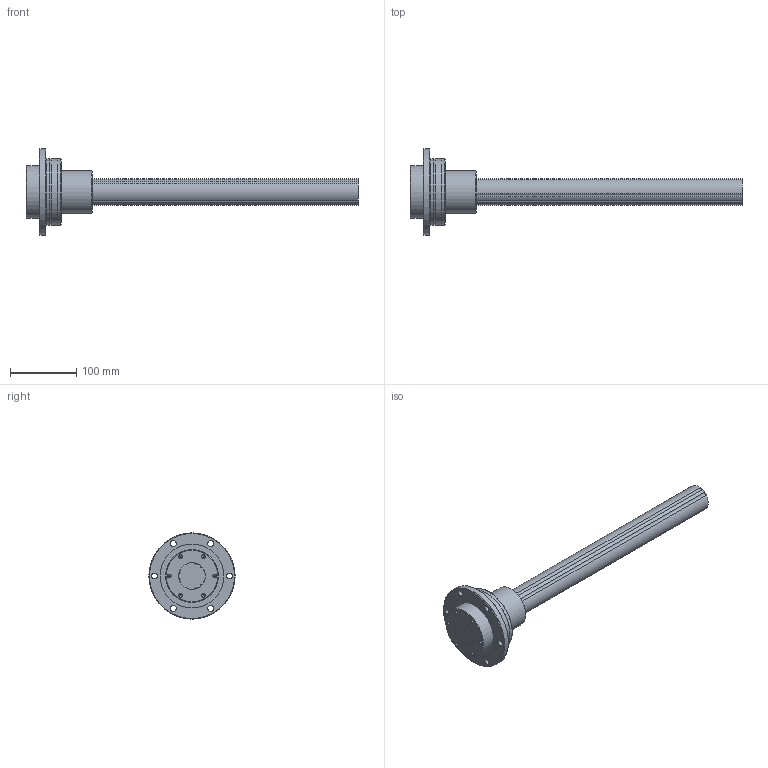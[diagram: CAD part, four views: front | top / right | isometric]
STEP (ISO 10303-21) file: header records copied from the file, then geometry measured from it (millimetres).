
FILE_DESCRIPTION(/* description */ ('STEP AP214'),/* implementation_level */ '2;1');
FILE_NAME(/* name */ 'LTR40A+500L(0_0)',/* time_stamp */ '2024-09-04T12:33:16+02:00',/* author */ ('License CC BY-ND 4.0'),/* organization */ ('CADENAS'),/* preprocessor_version */ 'ST-DEVELOPER v19.3',/* originating_system */ 'PARTsolutions',/* authorisation */ ' ');
FILE_SCHEMA (('AUTOMOTIVE_DESIGN {1 0 10303 214 3 1 1}'));
Length unit declared in the file: millimetre
Products named in the file (3): LTR40A+500L(0,0); LTR 40A500 LTRA Shaft; LTR 40A LTRA ACyl
Assembly tree (3 placements, depth 2):
  LTR40A+500L(0,0)
    LTR 40A500 LTRA Shaft
    LTR 40A LTRA ACyl  x2
Bounding box: 500 x 130 x 130 mm (x, y, z)
Volume: 1456360.3 mm3; surface area: 201400 mm2
Topology: 3 solids, 3 shells, 122 faces, 284 edges, 184 vertices
Faces by surface type: cylinder 60, cone 34, plane 22, torus 6
Full cylindrical faces by diameter (mm): 3 x2, 4.917 x12, 9 x12, 40 x2, 64 x2, 75 x2, 79.5 x2, 90 x2, 96.364 x2, 99.5 x2, 99.6 x2, 100 x4, 130 x2
Entity records: 1734 total; most frequent: DIRECTION 322, CARTESIAN_POINT 276, ORIENTED_EDGE 192, AXIS2_PLACEMENT_3D 155, FACE_BOUND 140, EDGE_LOOP 134, EDGE_CURVE 96, VERTEX_POINT 90
